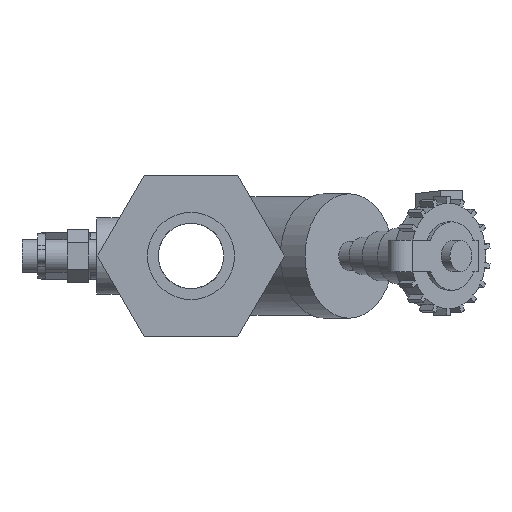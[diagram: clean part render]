
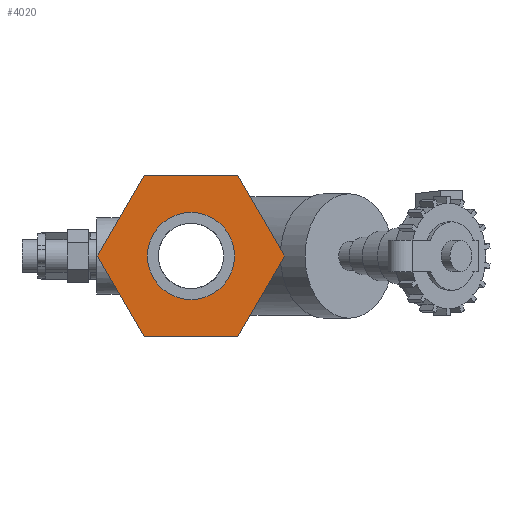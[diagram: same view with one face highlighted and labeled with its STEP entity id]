
A CAD part, left-side view. The second image highlights one B-rep face of the part: STEP entity #4020.
In plain terms, the highlighted planar face has unit normal (-1, 0, 0).
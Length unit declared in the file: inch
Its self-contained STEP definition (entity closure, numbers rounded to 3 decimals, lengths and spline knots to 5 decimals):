
#57=FACE_BOUND('',#439,.T.);
#211=FACE_OUTER_BOUND('',#438,.T.);
#438=EDGE_LOOP('',(#2751,#2752,#2753,#2754,#2755,#2756));
#439=EDGE_LOOP('',(#2757));
#678=CIRCLE('',#4308,0.7);
#882=LINE('',#6527,#1239);
#883=LINE('',#6529,#1240);
#884=LINE('',#6531,#1241);
#885=LINE('',#6533,#1242);
#886=LINE('',#6535,#1243);
#887=LINE('',#6536,#1244);
#1239=VECTOR('',#4873,0.3937);
#1240=VECTOR('',#4874,0.3937);
#1241=VECTOR('',#4875,0.3937);
#1242=VECTOR('',#4876,0.3937);
#1243=VECTOR('',#4877,0.3937);
#1244=VECTOR('',#4878,0.3937);
#1638=VERTEX_POINT('',#6525);
#1639=VERTEX_POINT('',#6526);
#1640=VERTEX_POINT('',#6528);
#1641=VERTEX_POINT('',#6530);
#1642=VERTEX_POINT('',#6532);
#1643=VERTEX_POINT('',#6534);
#1644=VERTEX_POINT('',#6537);
#2069=EDGE_CURVE('',#1638,#1639,#882,.T.);
#2070=EDGE_CURVE('',#1639,#1640,#883,.T.);
#2071=EDGE_CURVE('',#1640,#1641,#884,.T.);
#2072=EDGE_CURVE('',#1641,#1642,#885,.T.);
#2073=EDGE_CURVE('',#1642,#1643,#886,.T.);
#2074=EDGE_CURVE('',#1643,#1638,#887,.T.);
#2075=EDGE_CURVE('',#1644,#1644,#678,.T.);
#2751=ORIENTED_EDGE('',*,*,#2069,.T.);
#2752=ORIENTED_EDGE('',*,*,#2070,.T.);
#2753=ORIENTED_EDGE('',*,*,#2071,.T.);
#2754=ORIENTED_EDGE('',*,*,#2072,.T.);
#2755=ORIENTED_EDGE('',*,*,#2073,.T.);
#2756=ORIENTED_EDGE('',*,*,#2074,.T.);
#2757=ORIENTED_EDGE('',*,*,#2075,.F.);
#3747=PLANE('',#4307);
#4020=ADVANCED_FACE('',(#211,#57),#3747,.T.);
#4307=AXIS2_PLACEMENT_3D('',#6524,#4871,#4872);
#4308=AXIS2_PLACEMENT_3D('',#6538,#4879,#4880);
#4871=DIRECTION('center_axis',(-1.,0.,0.));
#4872=DIRECTION('ref_axis',(0.,0.,1.));
#4873=DIRECTION('',(0.,1.,0.));
#4874=DIRECTION('',(0.,0.5,-0.866));
#4875=DIRECTION('',(0.,-0.5,-0.866));
#4876=DIRECTION('',(0.,-1.,0.));
#4877=DIRECTION('',(0.,-0.5,0.866));
#4878=DIRECTION('',(0.,0.5,0.866));
#4879=DIRECTION('center_axis',(-1.,0.,0.));
#4880=DIRECTION('ref_axis',(0.,1.,0.));
#6524=CARTESIAN_POINT('Origin',(-3.7,0.,0.));
#6525=CARTESIAN_POINT('',(-3.7,-0.75056,1.3));
#6526=CARTESIAN_POINT('',(-3.7,0.75056,1.3));
#6527=CARTESIAN_POINT('',(-3.7,0.75056,1.3));
#6528=CARTESIAN_POINT('',(-3.7,1.50111,0.));
#6529=CARTESIAN_POINT('',(-3.7,1.50111,0.));
#6530=CARTESIAN_POINT('',(-3.7,0.75056,-1.3));
#6531=CARTESIAN_POINT('',(-3.7,0.75056,-1.3));
#6532=CARTESIAN_POINT('',(-3.7,-0.75056,-1.3));
#6533=CARTESIAN_POINT('',(-3.7,-0.75056,-1.3));
#6534=CARTESIAN_POINT('',(-3.7,-1.50111,0.));
#6535=CARTESIAN_POINT('',(-3.7,-1.50111,0.));
#6536=CARTESIAN_POINT('',(-3.7,-0.75056,1.3));
#6537=CARTESIAN_POINT('',(-3.7,-0.7,0.));
#6538=CARTESIAN_POINT('Origin',(-3.7,0.,0.));
